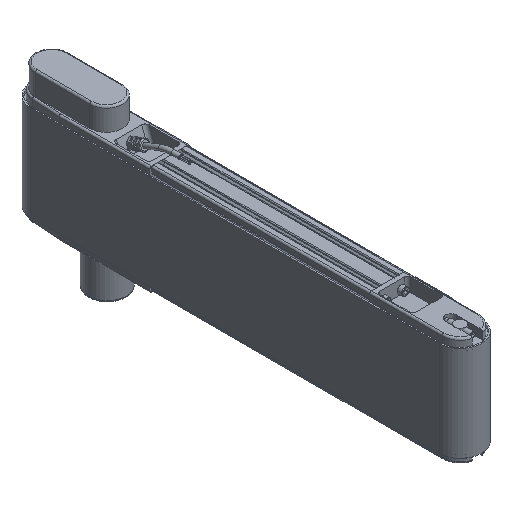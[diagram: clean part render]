
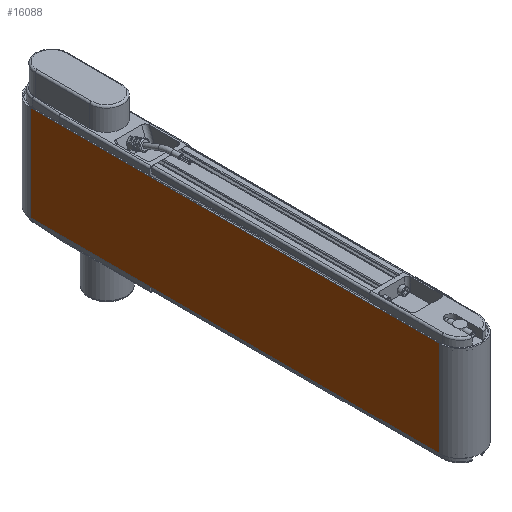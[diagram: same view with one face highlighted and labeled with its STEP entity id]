
A CAD part, isometric view. The second image highlights one B-rep face of the part: STEP entity #16088.
In plain terms, the highlighted planar face has unit normal (-1, 0, 0).
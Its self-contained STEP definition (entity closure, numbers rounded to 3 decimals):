
#506=PLANE('',#17149);
#1167=FACE_OUTER_BOUND('',#2058,.T.);
#2058=EDGE_LOOP('',(#10876,#10877,#10878,#10879));
#3062=LINE('',#23926,#4314);
#3063=LINE('',#23931,#4315);
#3065=LINE('',#23935,#4317);
#3066=LINE('',#23936,#4318);
#4314=VECTOR('',#19255,10.);
#4315=VECTOR('',#19260,10.);
#4317=VECTOR('',#19264,10.);
#4318=VECTOR('',#19265,10.);
#6455=VERTEX_POINT('',#23920);
#6457=VERTEX_POINT('',#23924);
#6459=VERTEX_POINT('',#23929);
#6460=VERTEX_POINT('',#23934);
#8168=EDGE_CURVE('',#6455,#6457,#3062,.T.);
#8170=EDGE_CURVE('',#6459,#6457,#3063,.T.);
#8172=EDGE_CURVE('',#6459,#6460,#3065,.T.);
#8173=EDGE_CURVE('',#6460,#6455,#3066,.T.);
#10876=ORIENTED_EDGE('',*,*,#8172,.T.);
#10877=ORIENTED_EDGE('',*,*,#8173,.T.);
#10878=ORIENTED_EDGE('',*,*,#8168,.T.);
#10879=ORIENTED_EDGE('',*,*,#8170,.F.);
#16088=ADVANCED_FACE('',(#1167),#506,.T.);
#17149=AXIS2_PLACEMENT_3D('',#23933,#19262,#19263);
#19255=DIRECTION('',(0.,1.,0.));
#19260=DIRECTION('',(0.,0.,1.));
#19262=DIRECTION('center_axis',(-1.,0.,0.));
#19263=DIRECTION('ref_axis',(0.,0.,
1.));
#19264=DIRECTION('',(0.,-1.,0.));
#19265=DIRECTION('',(0.,0.,1.));
#23920=CARTESIAN_POINT('',(-23.3,-320.,52.5));
#23924=CARTESIAN_POINT('',(-23.3,130.,52.5));
#23926=CARTESIAN_POINT('',(-23.3,130.,52.5));
#23929=CARTESIAN_POINT('',(-23.3,130.,-52.5));
#23931=CARTESIAN_POINT('',(-23.3,130.,0.));
#23933=CARTESIAN_POINT('Origin',(-23.3,130.,0.));
#23934=CARTESIAN_POINT('',(-23.3,-320.,-52.5));
#23935=CARTESIAN_POINT('',(-23.3,130.,-52.5));
#23936=CARTESIAN_POINT('',(-23.3,-320.,0.));
